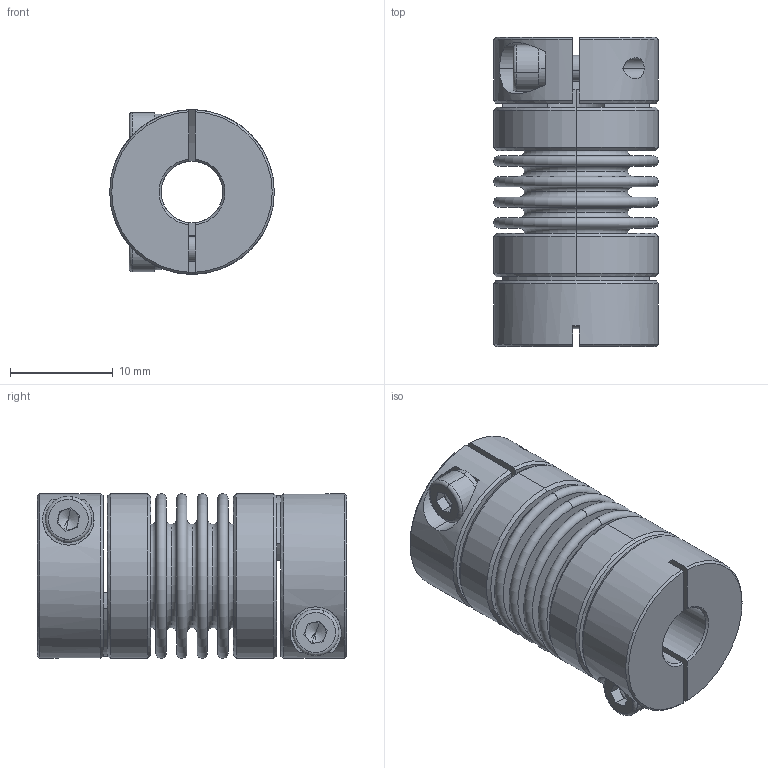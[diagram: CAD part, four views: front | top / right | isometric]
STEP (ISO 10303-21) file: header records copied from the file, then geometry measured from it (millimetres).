
FILE_DESCRIPTION (( 'STEP AP203' ), '1' );
FILE_NAME ('LB-B-D16L30-6-6.35.STEP', '2021-11-04T01:14:29', ( '' ), ( '' ), 'SwSTEP 2.0', 'SolidWorks 2018', '' );
FILE_SCHEMA (( 'CONFIG_CONTROL_DESIGN' ));
Length unit declared in the file: millimetre
Products named in the file (2): LB-B-D16L30-6-6.35; 零件1^LB-B-D16L30 波纹管联轴器-组装体
Assembly tree (1 placements, depth 2):
  LB-B-D16L30-6-6.35
    零件1^LB-B-D16L30 波纹管联轴器-组装体
Bounding box: 16 x 30.04 x 16 mm (x, y, z)
Volume: 3097.4 mm3; surface area: 6438.3 mm2
Topology: 1 solids, 1 shells, 254 faces, 586 edges, 362 vertices
Faces by surface type: plane 86, torus 68, cylinder 66, cone 34
Entity records: 7660 total; most frequent: CARTESIAN_POINT 1472, DIRECTION 1420, ORIENTED_EDGE 1164, AXIS2_PLACEMENT_3D 622, EDGE_CURVE 582, CIRCLE 364, VERTEX_POINT 362, EDGE_LOOP 296
